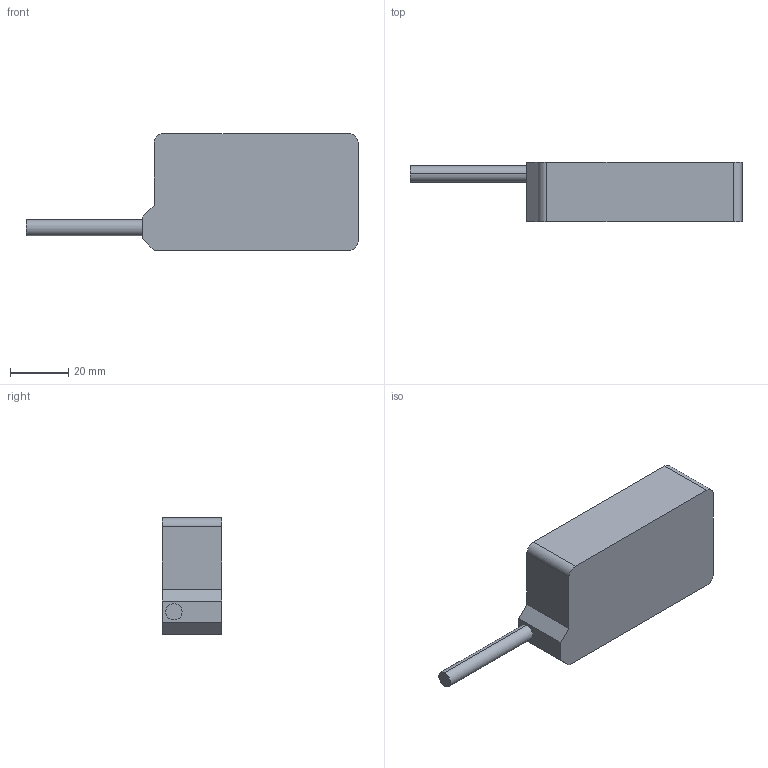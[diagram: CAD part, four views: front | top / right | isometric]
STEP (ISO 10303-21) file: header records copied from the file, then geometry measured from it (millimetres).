
FILE_DESCRIPTION (( 'STEP AP203' ), '1' );
FILE_NAME ('DPN40C2.STEP', '2017-12-15T06:49:32', ( 'Windows 蚚誧' ), ( '' ), 'SwSTEP 2.0', 'SolidWorks 2016', '' );
FILE_SCHEMA (( 'CONFIG_CONTROL_DESIGN' ));
Length unit declared in the file: millimetre
Products named in the file (1): DPN40C2
Bounding box: 114 x 20.4 x 40 mm (x, y, z)
Volume: 58770.6 mm3; surface area: 11140.2 mm2
Topology: 1 solids, 1 shells, 47 faces, 116 edges, 64 vertices
Faces by surface type: cylinder 21, cone 16, plane 10
Entity records: 1349 total; most frequent: DIRECTION 238, CARTESIAN_POINT 212, ORIENTED_EDGE 200, EDGE_CURVE 100, AXIS2_PLACEMENT_3D 90, VERTEX_POINT 64, VECTOR 58, LINE 58
